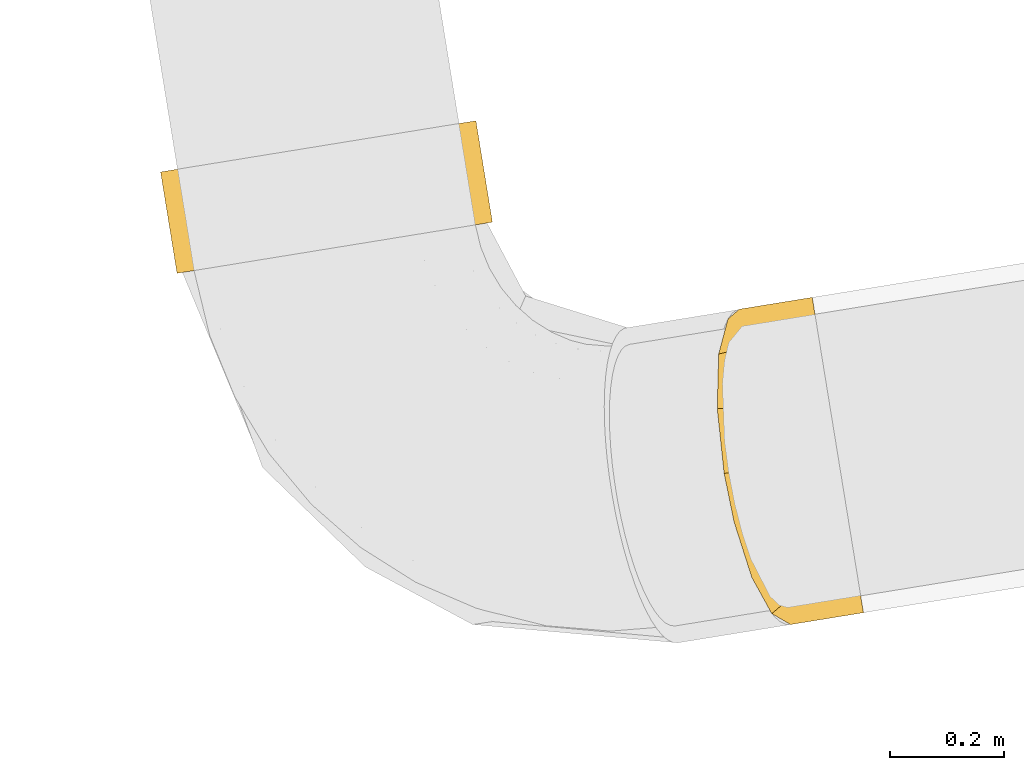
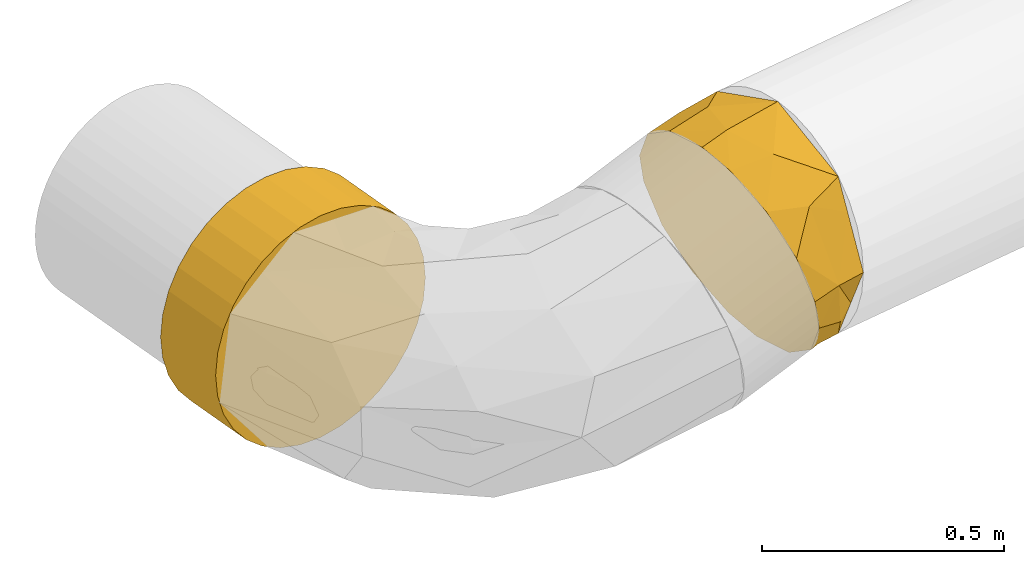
# One storey, part 11 of 39: 2 coverings.
"""IFC2X3 building model written with IfcOpenShell, lengths in millimetres."""

from ifc_helpers import new_model, entity, si_unit, converted_unit, derived_unit, direction, frame, origin, origin_with_axes, place, context, subcontext, project, spatial, faceted_brep, type_object, element, save


model = new_model("IFC2X3")

# Units and contexts
model_context = context("Model", 3, precision=0.01, world=origin(), true_north=direction((6.12323399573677e-17, 1.0)))
plan_context = context("Plan", 3, precision=1e-05, world=origin_with_axes())
body_context = subcontext(model_context, "Body", "Model", "MODEL_VIEW")
ifc_project = project(units=[converted_unit("PLANEANGLEUNIT", "DEGREE", entity("IfcPositiveLengthMeasure", 0.0174532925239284), si_unit("PLANEANGLEUNIT", "RADIAN"), dimensions=[0, 0, 0, 0, 0, 0, 0]), si_unit("AREAUNIT", "SQUARE_METRE"), si_unit("LENGTHUNIT", "METRE", prefix="MILLI"), si_unit("MASSUNIT", "GRAM", prefix="KILO"), si_unit("POWERUNIT", "WATT"), si_unit("PRESSUREUNIT", "PASCAL", prefix="KILO"), si_unit("FORCEUNIT", "NEWTON", prefix="KILO"), si_unit("ELECTRICVOLTAGEUNIT", "VOLT"), si_unit("ELECTRICCURRENTUNIT", "AMPERE"), si_unit("THERMODYNAMICTEMPERATUREUNIT", "DEGREE_CELSIUS"), si_unit("TIMEUNIT", "SECOND"), si_unit("VOLUMEUNIT", "CUBIC_METRE"), derived_unit("LINEARVELOCITYUNIT", [(si_unit("LENGTHUNIT", "METRE"), 1), (si_unit("TIMEUNIT", "SECOND"), -1)]), derived_unit("VOLUMETRICFLOWRATEUNIT", [(si_unit("VOLUMEUNIT", "CUBIC_METRE"), 1), (si_unit("TIMEUNIT", "SECOND"), -1)]), derived_unit("THERMALTRANSMITTANCEUNIT", [(si_unit("POWERUNIT", "WATT"), 1), (si_unit("THERMODYNAMICTEMPERATUREUNIT", "KELVIN"), -1), (si_unit("AREAUNIT", "SQUARE_METRE"), -1)]), derived_unit("SOUNDPRESSUREUNIT", [(si_unit("PRESSUREUNIT", "PASCAL"), 1)])], contexts=[model_context, plan_context])

# Site, building, storey
site_placement = place(None, frame((-0.00071070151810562, 0.00438415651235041, 0.0), z_axis=(0.0, 0.0, 1.0), x_axis=(-0.160236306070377, 0.987078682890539, 0.0)))
site = spatial("IfcSite", under=ifc_project, at=site_placement, Name="Default", CompositionType="ELEMENT")
building_placement = place(site_placement, origin_with_axes())
building = spatial("IfcBuilding", under=site, at=building_placement, CompositionType="ELEMENT")
storey_placement = place(building_placement, frame((0.0, 0.0, 50999.9999999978), z_axis=(0.0, 0.0, 1.0), x_axis=(1.0, 0.0, 0.0)))
storey = spatial("IfcBuildingStorey", under=building, at=storey_placement, Name="Nivå D", CompositionType="ELEMENT", Elevation=50999.9999999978)

# Coverings
covering_type = type_object("IfcCoveringType", Name="Duct Insulation:EI 60-30", PredefinedType="INSULATION")
covering_1_placement = place(storey_placement, frame((779411.619644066, -599294.500350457, 2818.40472776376), z_axis=(0.0, 0.0, 1.0), x_axis=(1.0, 0.0, 0.0)))
element("IfcCovering", 1, at=covering_1_placement, inside=storey, type_object=covering_type, Name="Duct Insulation:EI 60-30", ObjectType="Duct Insulation:EI 60-30", PredefinedType="INSULATION", context=body_context, shape_type="Brep", body=[
    faceted_brep([(180.0, 514.406763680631, 126.035606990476), (180.0, 540.281541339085, 174.443911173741), (180.0, 556.215150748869, 226.969982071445), (180.0, 561.595272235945, 281.595272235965), (180.0, 556.215150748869, 336.220562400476), (180.0, 540.281541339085, 388.746633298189), (180.0, 514.406763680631, 437.154937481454), (180.0, 479.585170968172, 479.585170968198), (180.0, 437.154937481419, 514.406763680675), (180.0, 388.746633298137, 540.281541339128), (180.0, 336.220562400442, 556.215150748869), (180.0, 281.595272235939, 561.595272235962), (180.0, 226.969982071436, 556.215150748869), (180.0, 174.443911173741, 540.281541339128), (180.0, 126.035606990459, 514.406763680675), (180.0, 83.6053735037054, 479.585170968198), (180.0, 48.7837807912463, 437.154937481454), (180.0, 22.9090031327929, 388.746633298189), (180.0, 6.97539372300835, 336.220562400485), (180.0, 1.59527223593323, 281.595272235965), (180.0, 6.97539372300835, 226.969982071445), (180.0, 22.9090031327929, 174.443911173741), (180.0, 48.7837807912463, 126.035606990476), (180.0, 83.6053735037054, 83.6053735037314), (180.0, 126.035606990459, 48.783780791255), (180.0, 174.443911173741, 22.9090031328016), (180.0, 226.969982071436, 6.97539372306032), (180.0, 281.595272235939, 1.59527223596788), (180.0, 336.220562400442, 6.97539372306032), (180.0, 388.746633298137, 22.9090031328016), (180.0, 437.154937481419, 48.783780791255), (180.0, 479.585170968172, 83.6053735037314), (0.0, 540.281541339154, 388.746633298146), (0.0, 556.215150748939, 336.220562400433), (0.0, 561.595272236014, 281.595272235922), (0.0, 556.215150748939, 226.969982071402), (0.0, 540.281541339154, 174.443911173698), (0.0, 514.406763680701, 126.035606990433), (0.0, 479.585170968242, 83.6053735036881), (0.0, 437.154937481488, 48.7837807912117), (0.0, 388.746633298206, 22.9090031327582), (0.0, 336.220562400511, 6.97539372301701), (0.0, 281.595272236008, 1.59527223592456), (0.0, 226.969982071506, 6.97539372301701), (0.0, 174.44391117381, 22.9090031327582), (0.0, 126.035606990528, 48.7837807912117), (0.0, 83.6053735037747, 83.6053735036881), (0.0, 48.7837807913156, 126.035606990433), (0.0, 22.9090031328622, 174.443911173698), (0.0, 6.97539372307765, 226.969982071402), (0.0, 1.59527223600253, 281.595272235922), (0.0, 6.97539372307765, 336.220562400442), (0.0, 22.9090031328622, 388.746633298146), (0.0, 48.7837807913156, 437.15493748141), (0.0, 83.6053735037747, 479.585170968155), (0.0, 126.035606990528, 514.406763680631), (0.0, 174.44391117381, 540.281541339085), (0.0, 226.969982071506, 556.215150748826), (0.0, 281.595272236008, 561.595272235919), (0.0, 336.220562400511, 556.215150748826), (0.0, 388.746633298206, 540.281541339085), (0.0, 437.154937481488, 514.406763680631), (0.0, 479.585170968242, 479.585170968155), (0.0, 514.406763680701, 437.15493748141)], [[[0, 1, 2, 3, 4, 5, 6, 7, 8, 9, 10, 11, 12, 13, 14, 15, 16, 17, 18, 19, 20, 21, 22, 23, 24, 25, 26, 27, 28, 29, 30, 31]], [[32, 33, 34, 35, 36, 37, 38, 39, 40, 41, 42, 43, 44, 45, 46, 47, 48, 49, 50, 51, 52, 53, 54, 55, 56, 57, 58, 59, 60, 61, 62, 63]], [[19, 50, 49, 20]], [[48, 47, 22, 21]], [[21, 20, 49, 48]], [[23, 22, 47, 46]], [[25, 24, 45, 44]], [[26, 25, 44, 43]], [[27, 26, 43, 42]], [[46, 45, 24, 23]], [[28, 27, 42, 41]], [[29, 28, 41, 40]], [[30, 29, 40, 39]], [[39, 38, 31, 30]], [[1, 0, 37, 36]], [[2, 1, 36, 35]], [[3, 2, 35, 34]], [[38, 37, 0, 31]], [[4, 3, 34, 33]], [[5, 4, 33, 32]], [[6, 5, 32, 63]], [[63, 62, 7, 6]], [[9, 8, 61, 60]], [[10, 9, 60, 59]], [[11, 10, 59, 58]], [[62, 61, 8, 7]], [[12, 11, 58, 57]], [[13, 12, 57, 56]], [[14, 13, 56, 55]], [[55, 54, 15, 14]], [[17, 16, 53, 52]], [[18, 17, 52, 51]], [[19, 18, 51, 50]], [[54, 53, 16, 15]]]),
])
covering_2_placement = place(storey_placement, frame((778630.02437183, -599826.736760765, 3581.59527223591), z_axis=(0.0, 0.0, 1.0), x_axis=(1.0, 0.0, 0.0)))
element("IfcCovering", 2, at=covering_2_placement, inside=storey, type_object=covering_type, Name="Duct Insulation:EI 60-30", ObjectType="Duct Insulation:EI 60-30", PredefinedType="INSULATION", context=body_context, shape_type="Brep", body=[
    faceted_brep([(281.59527223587, 58.5354621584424, -569.091590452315), (167.706450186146, 64.8010603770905, -545.708059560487), (73.5114258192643, 82.5142935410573, -479.601373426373), (15.2974486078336, 108.612131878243, -382.202914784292), (1.59527223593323, 131.004794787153, -298.632359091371), (25.8036847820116, 160.481390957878, -188.624204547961), (94.2423623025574, 184.860857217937, -97.6387978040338), (195.076666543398, 199.92774321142, -41.4084137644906), (281.59527223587, 203.474127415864, -28.1731277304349), (395.484094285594, 197.208529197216, -51.5566586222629), (489.679118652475, 179.495296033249, -117.663344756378), (547.893095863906, 153.397457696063, -215.061803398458), (561.595272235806, 131.004794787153, -298.632359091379), (537.386859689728, 101.528198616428, -408.640513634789), (468.948182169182, 77.1487323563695, -499.625920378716), (368.113877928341, 62.0818463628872, -555.856304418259), (83.6053735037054, 1.59527223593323, -83.6053735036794), (53.2970626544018, 1.59527223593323, -156.776108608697), (1.59527223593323, 1.59527223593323, -281.595272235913), (42.60032286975, 1.59527223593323, -380.59022160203), (83.6053735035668, 1.59527223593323, -479.585170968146), (156.675101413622, 1.59527223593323, -509.851643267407), (281.59527223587, 1.59527223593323, -561.59527223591), (406.515443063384, 1.59527223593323, -509.851643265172), (479.585170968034, 1.59527223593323, -479.585170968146), (520.590221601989, 1.59527223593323, -380.59022160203), (561.595272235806, 1.59527223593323, -281.595272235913), (509.89348181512, 1.59527223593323, -156.776108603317), (479.585170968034, 1.59527223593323, -83.6053735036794), (407.426804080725, 1.59527223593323, -53.716399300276), (281.59527223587, 1.59527223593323, -1.5952722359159), (155.76374038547, 1.59527223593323, -53.716399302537), (171.917126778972, 102.438832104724, -30.7115231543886), (66.2700010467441, 92.6428638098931, -108.744114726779), (1.59527223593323, 66.8583683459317, -285.872841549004), (281.59527223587, 137.040850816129, -13.4452248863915), (28.3780705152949, 41.3128606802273, -403.177223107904), (281.59527223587, 30.3110345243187, -563.477402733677), (102.976645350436, 39.9503496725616, -499.821628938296), (459.545635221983, 37.5729317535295, -500.064522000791), (561.595272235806, 66.8583683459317, -285.872841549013), (534.936172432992, 41.1320127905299, -402.894399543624), (497.365542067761, 88.4548118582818, -108.731827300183), (388.886701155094, 100.603469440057, -29.4555692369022)], [[[0, 1, 2, 3, 4, 5, 6, 7, 8, 9, 10, 11, 12, 13, 14, 15]], [[16, 17, 18, 19, 20, 21, 22, 23, 24, 25, 26, 27, 28, 29, 30, 31]], [[16, 32, 33]], [[17, 33, 34]], [[34, 18, 17]], [[33, 17, 16]], [[5, 34, 33]], [[32, 30, 35]], [[32, 7, 6]], [[5, 33, 6]], [[32, 6, 33]], [[5, 4, 34]], [[32, 16, 31, 30]], [[8, 7, 35]], [[32, 35, 7]], [[19, 34, 36]], [[36, 20, 19]], [[37, 22, 21]], [[38, 21, 20]], [[19, 18, 34]], [[2, 1, 38]], [[2, 38, 36]], [[36, 34, 3]], [[4, 3, 34]], [[38, 1, 37]], [[1, 0, 37]], [[36, 38, 20]], [[21, 38, 37]], [[2, 36, 3]], [[14, 39, 15]], [[40, 25, 41]], [[25, 40, 26]], [[41, 24, 39]], [[41, 14, 13]], [[37, 23, 22]], [[0, 15, 37]], [[39, 37, 15]], [[39, 23, 37]], [[41, 39, 14]], [[13, 12, 40]], [[41, 13, 40]], [[24, 23, 39]], [[25, 24, 41]], [[10, 42, 11]], [[42, 27, 40]], [[43, 28, 42]], [[42, 10, 43]], [[42, 40, 11]], [[40, 27, 26]], [[27, 42, 28]], [[9, 8, 35]], [[30, 43, 35]], [[43, 9, 35]], [[30, 29, 28, 43]], [[11, 40, 12]], [[43, 10, 9]]]),
])

save(model, "model.ifc")
